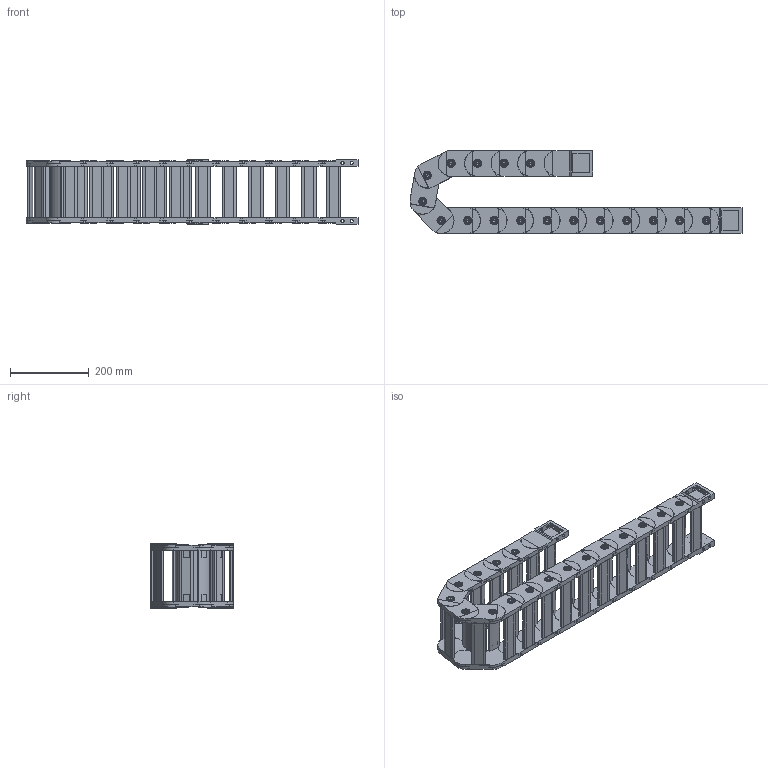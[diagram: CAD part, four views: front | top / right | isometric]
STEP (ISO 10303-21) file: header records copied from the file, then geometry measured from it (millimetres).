
FILE_DESCRIPTION((''),'2;1');
FILE_NAME('HD-45-LK-R75_ASM','2023-04-13T18:10:47',('admin'),(''),'CREO PARAMETRIC BY PTC INC, 2021164','CREO PARAMETRIC BY PTC INC, 2021164','');
FILE_SCHEMA(('CONFIG_CONTROL_DESIGN','GEOMETRIC_VALIDATION_PROPERTIES_MIM'));
Length unit declared in the file: millimetre
Products named in the file (6): HD-45-LK; 45-750001; HD-45-LK_ASM; H45-T2-G; H45-T1-G; HD-45-LK-R75_ASM
Assembly tree (23 placements, depth 3):
  HD-45-LK-R75_ASM
    HD-45-LK_ASM  x17
      HD-45-LK
      45-750001
    H45-T2-G
    H45-T1-G
    45-750001  x2
Bounding box: 845.15 x 210.68 x 163.5 mm (x, y, z)
Volume: 3745425.7 mm3; surface area: 1248013.9 mm2
Topology: 76 solids, 76 shells, 1826 faces, 4654 edges, 3094 vertices
Faces by surface type: plane 1112, cylinder 306, torus 204, cone 136, sphere 68
Entity records: 11252 total; most frequent: DIRECTION 1480, CARTESIAN_POINT 1464, ORIENTED_EDGE 1348, PRESENTATION_STYLE_ASSIGNMENT 704, STYLED_ITEM 688, CURVE_STYLE 674, EDGE_CURVE 674, AXIS2_PLACEMENT_3D 525
